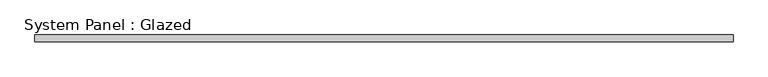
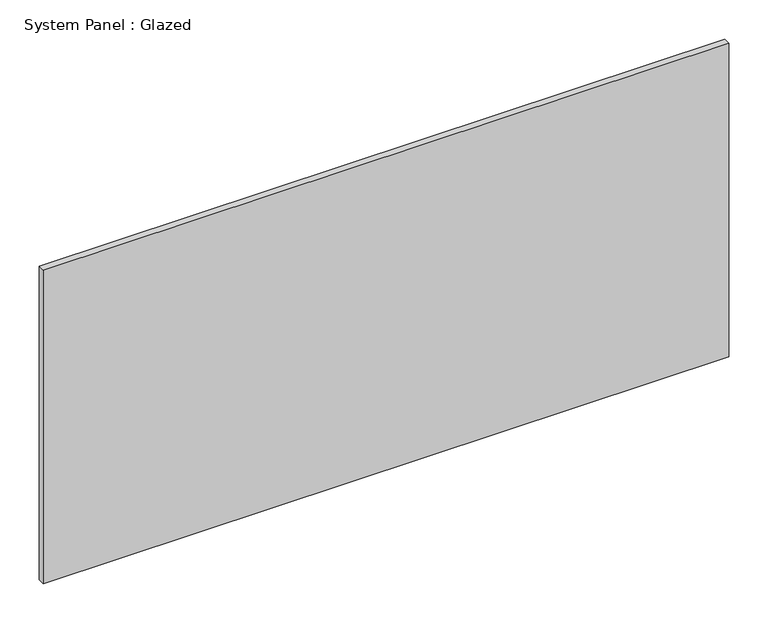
"""IFC4 building model written with IfcOpenShell, lengths in millimetres: plate geometry, System Panel : Glazed."""

from ifc_helpers import new_model, si_unit, origin, origin_with_axes, place, context, project, spatial, polyline, outline, extrude, source, transform, mapped, element, save


def system_panel_glazed_e39bf73d(model_context):
    return source(origin(), model_context, "Body", "SweptSolid", [
        extrude(outline(polyline([(505.0715634, -5.0), (-505.0715634, -5.0), (-505.0715634, 5.0), (505.0715634, 5.0), (505.0715634, -5.0)])), origin_with_axes(), (0.0, 0.0, 1.0), 488.3333333),
    ])


if __name__ == "__main__":
    model = new_model("IFC4")
    model_context = context("Model", 3, world=origin())
    ifc_project = project(units=[si_unit("LENGTHUNIT", "METRE", prefix="MILLI")], contexts=[model_context])
    site = spatial("IfcSite", under=ifc_project)
    building = spatial("IfcBuilding", under=site)
    placement = place(None, origin())
    system_panel_glazed_shape = system_panel_glazed_e39bf73d(model_context)
    element("IfcPlate", 1, ObjectType="System Panel : Glazed", at=placement, inside=building, context=model_context, shape_type="MappedRepresentation", body=[
        mapped(system_panel_glazed_shape, transform((0.0, 0.0, 0.0), x_axis=(1.0, 0.0, 0.0), y_axis=(0.0, 1.0, 0.0), z_axis=(0.0, 0.0, 1.0))),
    ])
    save(model, "model.ifc")
